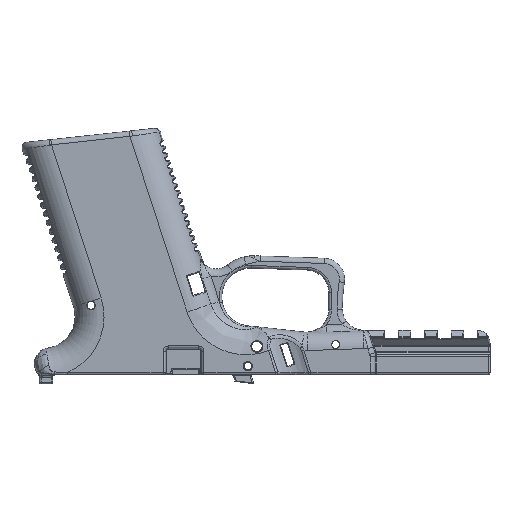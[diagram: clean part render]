
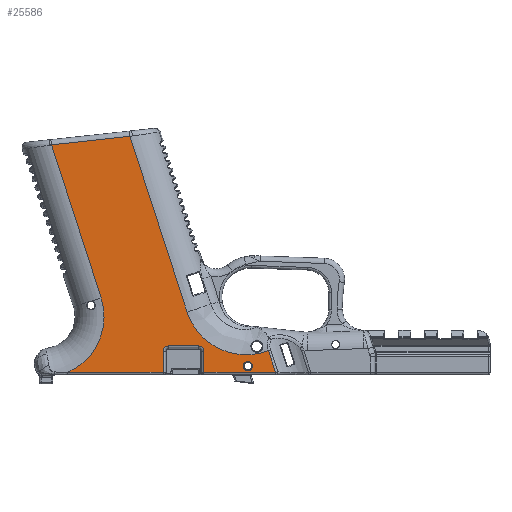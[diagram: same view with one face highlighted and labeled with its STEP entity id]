
A CAD part, front view. The second image highlights one B-rep face of the part: STEP entity #25586.
In plain terms, the highlighted planar face has unit normal (0, -1, 0).
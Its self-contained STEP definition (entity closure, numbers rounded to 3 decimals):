
#318=FACE_BOUND('',#7049,.T.);
#515=PLANE('',#28092);
#944=LINE('',#45964,#2269);
#990=LINE('',#50798,#2315);
#1524=LINE('',#59545,#2849);
#1525=LINE('',#59546,#2850);
#1526=LINE('',#59548,#2851);
#1527=LINE('',#59550,#2852);
#1528=LINE('',#59554,#2853);
#1529=LINE('',#59558,#2854);
#1530=LINE('',#59559,#2855);
#2269=VECTOR('',#30746,10.);
#2315=VECTOR('',#31282,10.);
#2849=VECTOR('',#33898,10.);
#2850=VECTOR('',#33899,10.);
#2851=VECTOR('',#33900,10.);
#2852=VECTOR('',#33901,10.);
#2853=VECTOR('',#33904,10.);
#2854=VECTOR('',#33907,10.);
#2855=VECTOR('',#33908,10.);
#5357=FACE_OUTER_BOUND('',#7048,.T.);
#7048=EDGE_LOOP('',(#21260,#21261,#21262,#21263,#21264,#21265,#21266,#21267,
#21268,#21269,#21270,#21271,#21272));
#7049=EDGE_LOOP('',(#21273));
#8097=CIRCLE('',#27213,23.01);
#8523=CIRCLE('',#28091,1.75);
#8524=CIRCLE('',#28093,2.);
#8525=CIRCLE('',#28094,2.);
#9689=B_SPLINE_CURVE_WITH_KNOTS('',3,(#59530,#59531,#59532,#59533,#59534,
#59535,#59536),.UNSPECIFIED.,.F.,.F.,(4,1,1,1,4),(0.,0.58,
1.74,2.9,3.82),.UNSPECIFIED.);
#10594=VERTEX_POINT('',#45961);
#10595=VERTEX_POINT('',#45963);
#10729=VERTEX_POINT('',#50795);
#10730=VERTEX_POINT('',#50797);
#10893=VERTEX_POINT('',#51836);
#11499=VERTEX_POINT('',#59513);
#11500=VERTEX_POINT('',#59540);
#11501=VERTEX_POINT('',#59544);
#11502=VERTEX_POINT('',#59547);
#11503=VERTEX_POINT('',#59549);
#11504=VERTEX_POINT('',#59551);
#11505=VERTEX_POINT('',#59553);
#11506=VERTEX_POINT('',#59555);
#11507=VERTEX_POINT('',#59557);
#13156=EDGE_CURVE('',#10594,#10595,#944,.T.);
#13476=EDGE_CURVE('',#10729,#10730,#990,.T.);
#13706=EDGE_CURVE('',#10893,#10729,#8097,.T.);
#14856=EDGE_CURVE('',#10595,#11499,#9689,.T.);
#14858=EDGE_CURVE('',#11500,#11500,#8523,.T.);
#14860=EDGE_CURVE('',#11499,#11501,#1524,.T.);
#14861=EDGE_CURVE('',#10730,#10594,#1525,.T.);
#14862=EDGE_CURVE('',#11502,#10893,#1526,.T.);
#14863=EDGE_CURVE('',#11503,#11502,#1527,.T.);
#14864=EDGE_CURVE('',#11504,#11503,#8524,.T.);
#14865=EDGE_CURVE('',#11505,#11504,#1528,.T.);
#14866=EDGE_CURVE('',#11506,#11505,#8525,.T.);
#14867=EDGE_CURVE('',#11507,#11506,#1529,.T.);
#14868=EDGE_CURVE('',#11501,#11507,#1530,.T.);
#21260=ORIENTED_EDGE('',*,*,#14860,.F.);
#21261=ORIENTED_EDGE('',*,*,#14856,.F.);
#21262=ORIENTED_EDGE('',*,*,#13156,.F.);
#21263=ORIENTED_EDGE('',*,*,#14861,.F.);
#21264=ORIENTED_EDGE('',*,*,#13476,.F.);
#21265=ORIENTED_EDGE('',*,*,#13706,.F.);
#21266=ORIENTED_EDGE('',*,*,#14862,.F.);
#21267=ORIENTED_EDGE('',*,*,#14863,.F.);
#21268=ORIENTED_EDGE('',*,*,#14864,.F.);
#21269=ORIENTED_EDGE('',*,*,#14865,.F.);
#21270=ORIENTED_EDGE('',*,*,#14866,.F.);
#21271=ORIENTED_EDGE('',*,*,#14867,.F.);
#21272=ORIENTED_EDGE('',*,*,#14868,.F.);
#21273=ORIENTED_EDGE('',*,*,#14858,.F.);
#25586=ADVANCED_FACE('',(#5357,#318),#515,.F.);
#27213=AXIS2_PLACEMENT_3D('',#51841,#31707,#31708);
#28091=AXIS2_PLACEMENT_3D('',#59541,#33893,#33894);
#28092=AXIS2_PLACEMENT_3D('',#59543,#33896,#33897);
#28093=AXIS2_PLACEMENT_3D('',#59552,#33902,#33903);
#28094=AXIS2_PLACEMENT_3D('',#59556,#33905,#33906);
#30746=DIRECTION('',(0.309,0.,-0.951));
#31282=DIRECTION('',(-0.309,0.,0.951));
#31707=DIRECTION('center_axis',(0.,-1.,0.));
#31708=DIRECTION('ref_axis',(0.864,0.,-0.504));
#33893=DIRECTION('center_axis',(0.,-1.,0.));
#33894=DIRECTION('ref_axis',(1.,0.,0.));
#33896=DIRECTION('center_axis',(0.,1.,0.));
#33897=DIRECTION('ref_axis',(1.,0.,0.));
#33898=DIRECTION('',(0.309,0.,-0.951));
#33899=DIRECTION('',(0.994,0.,0.108));
#33900=DIRECTION('',(-1.,0.,0.));
#33901=DIRECTION('',(0.,0.,-1.));
#33902=DIRECTION('center_axis',(0.,-1.,0.));
#33903=DIRECTION('ref_axis',(-0.707,0.,0.707));
#33904=DIRECTION('',(-1.,0.,0.));
#33905=DIRECTION('center_axis',(0.,-1.,0.));
#33906=DIRECTION('ref_axis',(0.707,0.,0.707));
#33907=DIRECTION('',(0.,0.,1.));
#33908=DIRECTION('',(-1.,0.,0.));
#45961=CARTESIAN_POINT('',(-43.553,-15.,50.503));
#45963=CARTESIAN_POINT('',(-21.903,-15.,-16.129));
#45964=CARTESIAN_POINT('',(-45.334,-15.,55.983));
#50795=CARTESIAN_POINT('',(-54.494,-15.,-10.792));
#50797=CARTESIAN_POINT('',(-73.358,-15.,47.266));
#50798=CARTESIAN_POINT('',(-64.362,-15.,19.58));
#51836=CARTESIAN_POINT('',(-67.193,-15.,-39.));
#51841=CARTESIAN_POINT('Origin',(-76.378,-15.,-17.902));
#59513=CARTESIAN_POINT('',(8.929,-15.,-30.782));
#59530=CARTESIAN_POINT('Ctrl Pts',(-21.903,-15.,-16.129));
#59531=CARTESIAN_POINT('Ctrl Pts',(-21.306,-15.,-17.967));
#59532=CARTESIAN_POINT('Ctrl Pts',(-18.824,-15.,-23.26));
#59533=CARTESIAN_POINT('Ctrl Pts',(-11.625,-15.,-30.143));
#59534=CARTESIAN_POINT('Ctrl Pts',(-0.894,-15.,-33.126));
#59535=CARTESIAN_POINT('Ctrl Pts',(6.068,-15.,-31.892));
#59536=CARTESIAN_POINT('Ctrl Pts',(8.928,-15.,-30.781));
#59540=CARTESIAN_POINT('',(-0.553,-15.,-36.614));
#59541=CARTESIAN_POINT('Origin',(1.197,-15.,-36.614));
#59543=CARTESIAN_POINT('Origin',(4.924,-15.,6.92));
#59544=CARTESIAN_POINT('',(11.599,-15.,-39.));
#59545=CARTESIAN_POINT('',(8.744,-15.,-30.214));
#59546=CARTESIAN_POINT('',(-41.628,-15.,50.713));
#59547=CARTESIAN_POINT('',(-31.,-15.,-39.));
#59548=CARTESIAN_POINT('',(48.962,-15.,-39.));
#59549=CARTESIAN_POINT('',(-31.,-15.,-31.));
#59550=CARTESIAN_POINT('',(-31.,-15.,-16.54));
#59551=CARTESIAN_POINT('',(-29.,-15.,-29.));
#59552=CARTESIAN_POINT('Origin',(-29.,-15.,-31.));
#59553=CARTESIAN_POINT('',(-17.5,-15.,-29.));
#59554=CARTESIAN_POINT('',(-12.538,-15.,-29.));
#59555=CARTESIAN_POINT('',(-15.5,-15.,-31.));
#59556=CARTESIAN_POINT('Origin',(-17.5,-15.,-31.));
#59557=CARTESIAN_POINT('',(-15.5,-15.,-39.));
#59558=CARTESIAN_POINT('',(-15.5,-15.,-11.54));
#59559=CARTESIAN_POINT('',(48.962,-15.,-39.));
